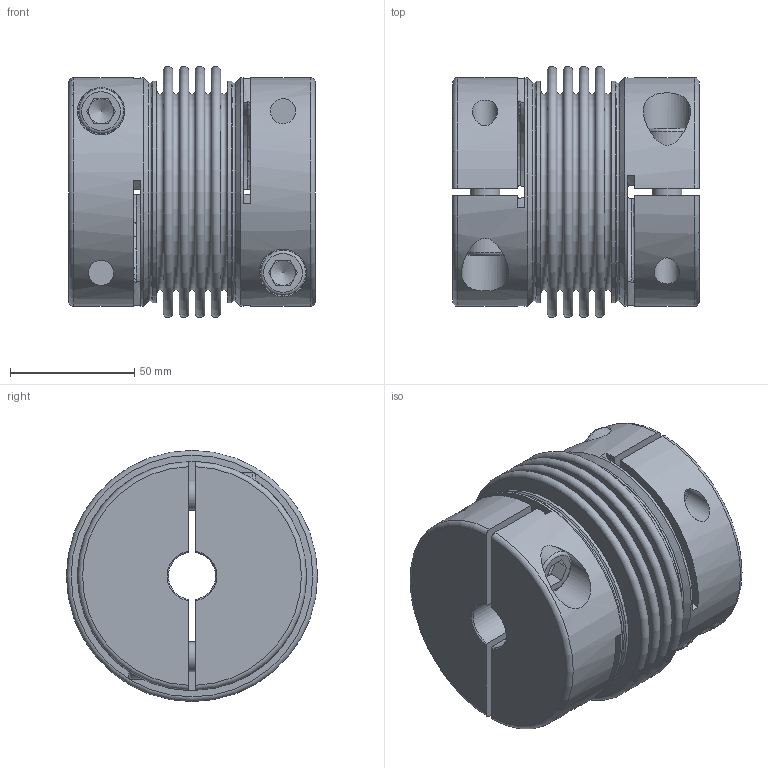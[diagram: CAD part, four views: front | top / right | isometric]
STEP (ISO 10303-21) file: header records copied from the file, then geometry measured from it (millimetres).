
FILE_DESCRIPTION(/* description */ ('Unknown','CAx-IF Rec.Pracs.---Representation and Presentation of Product Manufacturing Information (PMI)---4.0---2014-10-13','CAx-IF Rec.Pracs.---3D Tessellated Geometry---0.4---2014-09-14','2;1'),/* implementation_level */ '2;1');
FILE_NAME(/* name */ 'KG-HS 400-4W',/* time_stamp */ '2022-11-25T11:53:03+01:00',/* author */ ('Unknown'),/* organization */ ('Unknown'),/* preprocessor_version */ 'ST-DEVELOPER v18.102',/* originating_system */ 'Solid Edge',/* authorisation */ 'Unknown');
FILE_SCHEMA (('AP242_MANAGED_MODEL_BASED_3D_ENGINEERING_MIM_LF { 1 0 10303 442 1 1 4 }'));
Length unit declared in the file: millimetre
Products named in the file (1): 04824491
Bounding box: 99.15 x 101 x 101 mm (x, y, z)
Volume: 353131.9 mm3; surface area: 138568.4 mm2
Topology: 1 solids, 1 shells, 214 faces, 490 edges, 310 vertices
Faces by surface type: plane 110, cylinder 50, torus 34, cone 20
Full cylindrical faces by diameter (mm): 10.106 x8, 12 x4, 12.5 x4, 18 x4, 19 x4, 87.8 x2, 89 x2, 92 x2
Entity records: 7740 total; most frequent: CARTESIAN_POINT 1722, DIRECTION 976, ORIENTED_EDGE 792, AXIS2_PLACEMENT_3D 412, EDGE_CURVE 396, FACE_BOUND 328, EDGE_LOOP 324, VERTEX_POINT 288
